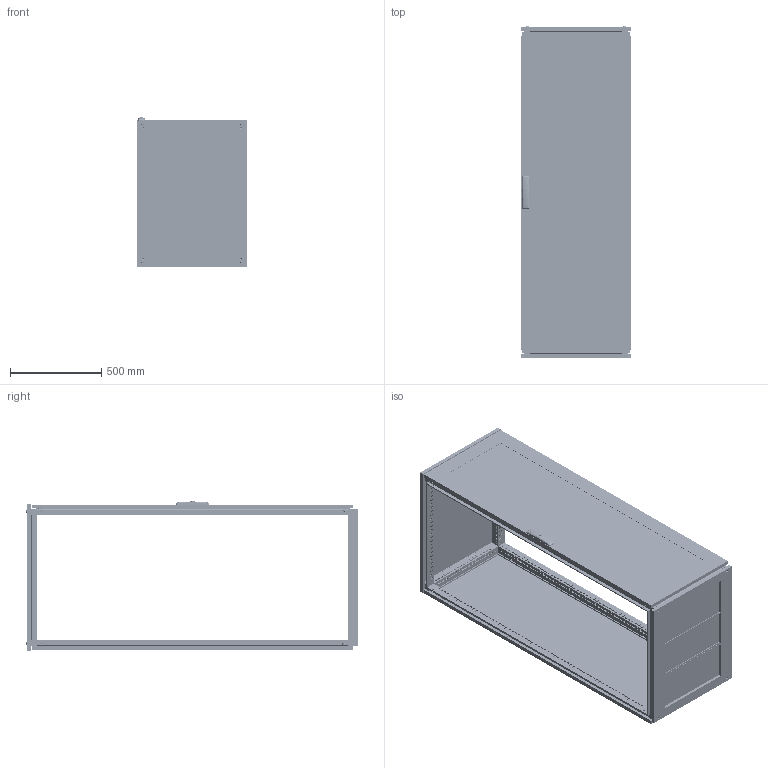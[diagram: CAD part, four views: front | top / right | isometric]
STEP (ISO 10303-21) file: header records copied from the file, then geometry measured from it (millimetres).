
FILE_DESCRIPTION (( 'STEP AP203' ), '1' );
FILE_NAME ('R5CQEN1868AX.STEP', '2025-05-07T11:58:07', ( '' ), ( '' ), 'SwSTEP 2.0', 'SolidWorks 2022', '' );
FILE_SCHEMA (( 'CONFIG_CONTROL_DESIGN' ));
Length unit declared in the file: millimetre
Products named in the file (65): RB.2052.00.00.0 СБ simple_-17; RB.2172.00.00.1 simple; AC00C446-R; 7 DIN 6799 Zinc; M6x10 DIN 7500 M Torx cl.5.8 Zinc_straight; RB.2528.00.00.0 simple_-04; Pressing stud FH-M6-12_M6x12mm; R5NKMN - Assem simple_R5NKMN18 (600х800); TPA.08.0139.00.03.0; M12x16 ISO 7380-1 HX cl.4,8 Zinc_straight; М6х12 A5100231_straight; RB.2457.00.00.0 СБ simple_-15; ATOS Traction guide ILY03.35; RB.2680.00.00.0 СБ simple; RB.2686.00.00.0 simple; RB.0528.04.00.0 СБ simple; PF 7,5x15 CPE simple_1800x0600; M6x15 Erickson cl.4,8 Zinc; RB.2499.01.00.0 СБ simple_-14; RB.1957.00.00.0 simple_-06; Glue CPTE simple_1800x0600; PF 7x14 CRE simple_1800x0600; RB.1633.00.02.0 simple_-03; RB.2696.00.00.0 simple; R5CQEN1868AX; 7 DIN 6799 Zinc simple; RB.2456.00.00.0 simple_-03; Pin 4x16 DIN 7 AISI 303 (A1) simple; RB.0054.01.01.0 simple_-17; RB.2455.00.00.0 simple_-02; R5NCRE-Assem simple_R5NCRE1860; RB.2702.00.00.0 simple; RB.0562.01.01.0 simple_-12; R5NCPTE - Assem simple_R5NCPTE1860; RB.1867.01.01.0 simple_-10; RB.2680.00.02.0 simple; PF 5x10 KTB simple_600x800; 4.8x13 DIN 7981 PH Zinc_straight; RB.2052.01.00.0 СБ simple_-17; TPA.08.0084.00.00.0 simple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
Assembly tree (173 placements, depth 5):
  R5CQEN1868AX
    R5NCPTE - Assem simple_R5NCPTE1860
      RB.0562.00.00.0 СБ simple_-12
        RB.0562.01.00.0 СБ simple_-12
          RB.0562.01.01.0 simple_-12
          М6х12 A5100231_straight  x7
          RB.2702.00.00.0 simple  x4
          PF 7,5x15 CPE simple_1800x0600
          Glass CPTE_1800x0600
          Glue CPTE simple_1800x0600
        Square cap 20x20 simple  x2
        M6x15 Erickson cl.4,8 Zinc  x2
        RB.0528.00.01.0 simple_-04  x2
        ATOS Traction guide ILY03.35  x4
        RB.2357.00.00.0 simple_-03
        RB.2680.00.00.0 СБ simple
          TPA.08.0139.00.01.0 simple
          RB.2680.00.01.0 simple
          RB.2680.00.02.0 simple  x2
        TPA.08.0139.00.03.0  x2
        M6 DIN 985 cl.6,0 Zinc_straight  x4
        4,0x16 F Torx Zinc (ART 88200)_thread  x2
        RB.0528.04.00.0 СБ simple  x2
          RB.0528.04.01.0 simple
          Pressing stud FH-M6-12_M6x12mm
      M6x10 DIN 912 HX cl.8,8 Zinc_straight  x8
      4.8x13 DIN 7981 PH Zinc_straight
      7 DIN 6799 Zinc simple  x4
      RB.2968.00.00.0 simple  x4
      RB.2969.00.00.0 СБ simple  x4
        RB.2969.00.01.0 simple
        Pin 4x16 DIN 7 AISI 303 (A1) simple
        M6 MGR-MKO-0625 simple_Thread
      AC00C446-R
      RB.2696.00.00.0 simple  x4
      7 DIN 6799 Zinc  x4
    R5NCRE-Assem simple_R5NCRE1860
      RB.2052.00.00.0 СБ simple_-17
        RB.2052.01.00.0 СБ simple_-17
          RB.0054.01.01.0 simple_-17
          М6х12 A5100231_straight  x4
        PF 7x14 CRE simple_1800x0600
      RB.2172.00.00.1 simple  x8
      M6x10 DIN 7500 E HX cl.5.8 Zinc_straight  x8
      M6x10 DIN 7500 M Torx cl.5.8 Zinc_straight  x8
    R5NKMN - Assem simple_R5NKMN18 (600х800)
      RB.2528.00.00.0 simple_-04  x4
    R5NKTB - Assem simple_H=1800 R5NKTB68
      RB.2499.00.00.0 СБ simple_-15
        RB.2499.01.00.0 СБ simple_-14
          RB.1633.00.01.0 simple_-02  x2
          RB.1633.00.02.0 simple_-03  x2
          PF 5x10 KTB simple_600x800
        RB.2457.00.00.0 СБ simple_-15
          RB.2455.00.00.0 simple_-02  x2
          RB.2456.00.00.0 simple_-03  x2
          TPA.08.0084.00.00.0 simple  x2
          TPA.08.0083.00.00.0 simple  x2
          M8x12 AC00C476 cl.8,8 Zinc_stright  x4
        RB.1957.00.00.0 simple_-06  x3
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Bounding box: 600 x 1813.3 x 814.74 mm (x, y, z)
Volume: 14518740.9 mm3; surface area: 13090729.4 mm2
Topology: 176 solids, 192 shells, 22157 faces, 62687 edges, 41379 vertices
Faces by surface type: plane 12339, cylinder 8277, cone 704, bspline 435, torus 368, sphere 34
Entity records: 221785 total; most frequent: CARTESIAN_POINT 54903, ORIENTED_EDGE 33066, DIRECTION 31555, EDGE_CURVE 16559, VERTEX_POINT 10962, AXIS2_PLACEMENT_3D 10605, LINE 10345, VECTOR 10345
